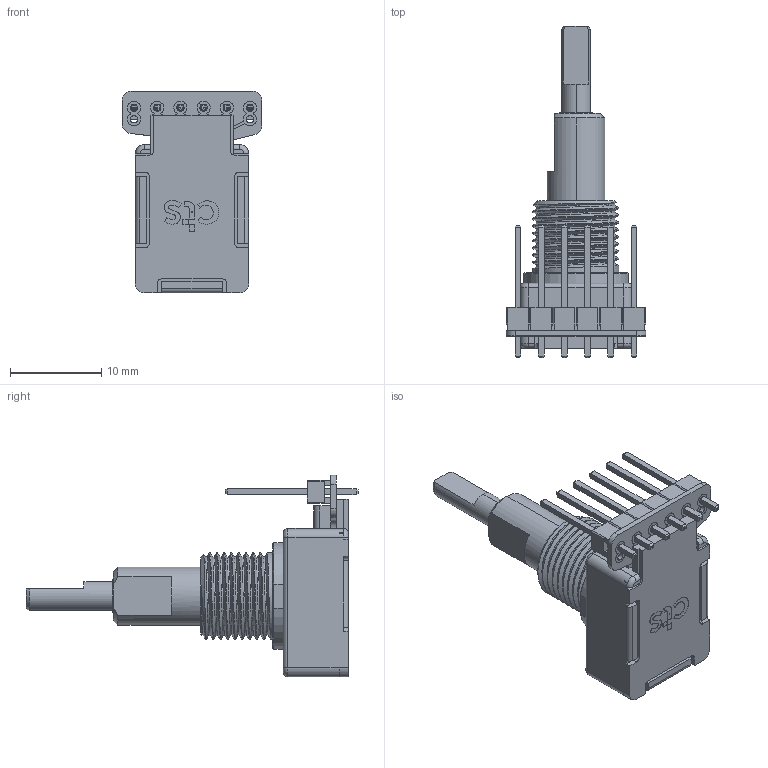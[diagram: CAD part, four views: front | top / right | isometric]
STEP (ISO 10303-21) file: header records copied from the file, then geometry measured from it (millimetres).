
FILE_DESCRIPTION(('Creo Elements/Direct Modeling STEP Export'),'2;1');
FILE_NAME('291AS0004.stp','2013-04-08T23:26:14',(''),(''),'Creo Elements/Direct Modeling STEP processor for AP214 (Solid Model)','Creo Elements/Direct Modeling 18.1C 24-Feb-2013 (C) Parametric Technology GmbH','');
FILE_SCHEMA(('AUTOMOTIVE_DESIGN { 1 0 10303 214 1 1 1 1 }'));
Length unit declared in the file: millimetre
Products named in the file (1): 291AS0004.prt
Bounding box: 15.3 x 36.38 x 22.13 mm (x, y, z)
Volume: 2583.3 mm3; surface area: 2250.3 mm2
Topology: 1 solids, 7 shells, 713 faces, 2131 edges, 1373 vertices
Faces by surface type: plane 451, cylinder 225, bspline 20, cone 11, torus 6
Entity records: 32816 total; most frequent: CARTESIAN_POINT 7500, ORIENTED_EDGE 4262, DIRECTION 3822, EDGE_CURVE 2131, VECTOR 1564, LINE 1564, VERTEX_POINT 1373, AXIS2_PLACEMENT_3D 1129
